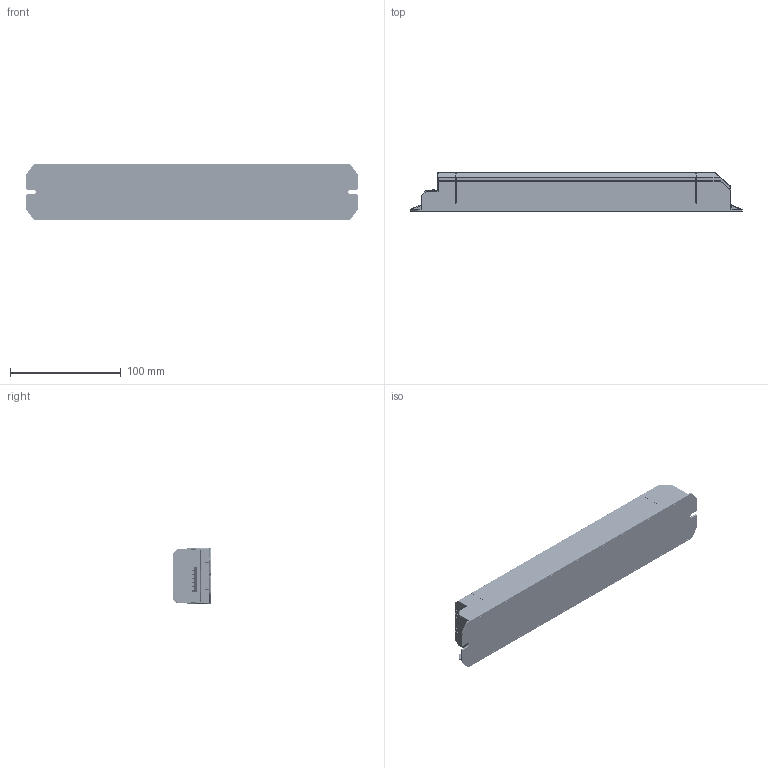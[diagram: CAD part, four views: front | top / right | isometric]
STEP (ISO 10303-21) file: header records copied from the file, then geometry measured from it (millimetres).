
FILE_DESCRIPTION((''),'2;1');
FILE_NAME('EBB-66_ASM','2019-08-12T',('616179'),(''),'CREO PARAMETRIC BY PTC INC, 2016380','CREO PARAMETRIC BY PTC INC, 2016380','');
FILE_SCHEMA(('CONFIG_CONTROL_DESIGN'));
Products named in the file (236): EBB-66SG; EBB-66DG; BOARD; LD3D5X7D5-10W; L25_ASM; L26_ASM; L23_ASM; CD13X21D5-5; C81A_ASM; 606969088; U41_ASM; SOD_123; DS22_ASM; 606968304; C11_ASM; C12_ASM; EXTRUDED-25574; 514638912_ASM; EXTRUDED-25946; 514642752_ASM; CS81C_ASM; CS81B_ASM; CS81A_ASM; RES_SMT_0805; RS66_ASM; LS61_ASM; LS31_ASM; CB12X7D5X15-7D5RI; C41_ASM; 606983088; L41_ASM; RS82A_ASM; DO_214_AC; DS44_ASM; DS43_ASM; LD5X9D5-2D5; L61_ASM; SOT23-5; US61_ASM; RS74_ASM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
Assembly tree (491 placements, depth 6):
  EBB-66_ASM
    EBB-66SG
    EBB-66DG
    PCB_ASM
      BOARD
      L25_ASM
        LD3D5X7D5-10W
      L26_ASM
        LD3D5X7D5-10W
      L23_ASM
        LD3D5X7D5-10W
      C81A_ASM
        CD13X21D5-5
      U41_ASM
        606969088
      DS22_ASM
        SOD_123
      C11_ASM
        606968304
      C12_ASM
        606968304
      CS81C_ASM
        514638912_ASM  x2
          EXTRUDED-25574
        514642752_ASM
          EXTRUDED-25946
      CS81B_ASM
        514638912_ASM  x2
          EXTRUDED-25574
        514642752_ASM
          EXTRUDED-25946
      CS81A_ASM
        514638912_ASM  x2
          EXTRUDED-25574
        514642752_ASM
          EXTRUDED-25946
      RS66_ASM
        RES_SMT_0805
      LS61_ASM
        RES_SMT_0805
      LS31_ASM
        RES_SMT_0805
      C41_ASM
        CB12X7D5X15-7D5RI
      L41_ASM
        606983088
      RS82A_ASM
        RES_SMT_0805
      DS44_ASM
        DO_214_AC
      DS43_ASM
        DO_214_AC
      L61_ASM
        LD5X9D5-2D5
      US61_ASM
        SOT23-5
      RS74_ASM
        RES_SMT_0805
      RS70_ASM
        514636224_ASM  x2
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Bounding box: 300 x 35 x 50.09 mm (x, y, z)
Volume: 148984.1 mm3; surface area: 244625.4 mm2
Topology: 351 solids, 352 shells, 7212 faces, 18185 edges, 11776 vertices
Faces by surface type: plane 4560, cylinder 1855, torus 508, bspline 169, sphere 72, extrusion 48
Entity records: 156626 total; most frequent: CARTESIAN_POINT 31478, DIRECTION 22408, ORIENTED_EDGE 19792, EDGE_CURVE 9896, AXIS2_PLACEMENT_3D 8120, VERTEX_POINT 6386, VECTOR 6168, LINE 6120
